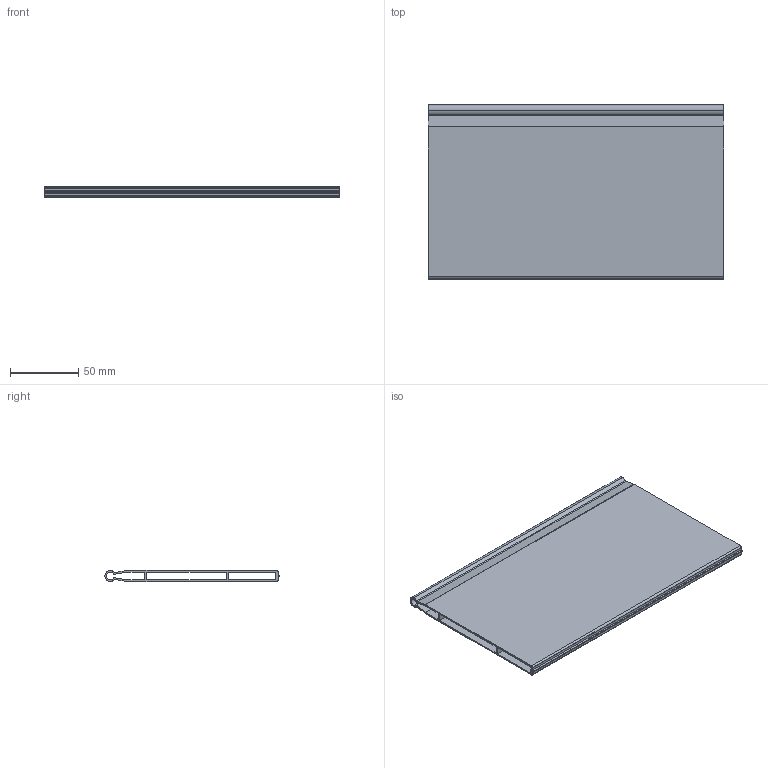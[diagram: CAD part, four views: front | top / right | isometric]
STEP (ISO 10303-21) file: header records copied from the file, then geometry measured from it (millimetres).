
FILE_DESCRIPTION (( 'STEP AP214' ), '1' );
FILE_NAME ('_Magic Optima Unterteilungsprofil DWD XP KAB 350.step', '2010-08-17T12:26:34', ( 'grass' ), ( '' ), 'SwSTEP 2.0', 'SolidWorks 2010', '' );
FILE_SCHEMA (( 'AUTOMOTIVE_DESIGN' ));
Length unit declared in the file: millimetre
Products named in the file (1): _Magic Optima Unterteilungsprofil DWD XP  KAB 350
Bounding box: 216 x 127.7 x 8.1 mm (x, y, z)
Volume: 75713.1 mm3; surface area: 117816 mm2
Topology: 1 solids, 1 shells, 39 faces, 111 edges, 74 vertices
Faces by surface type: plane 22, cylinder 17
Entity records: 1325 total; most frequent: DIRECTION 225, CARTESIAN_POINT 225, ORIENTED_EDGE 222, EDGE_CURVE 111, LINE 77, VECTOR 77, AXIS2_PLACEMENT_3D 74, VERTEX_POINT 74
